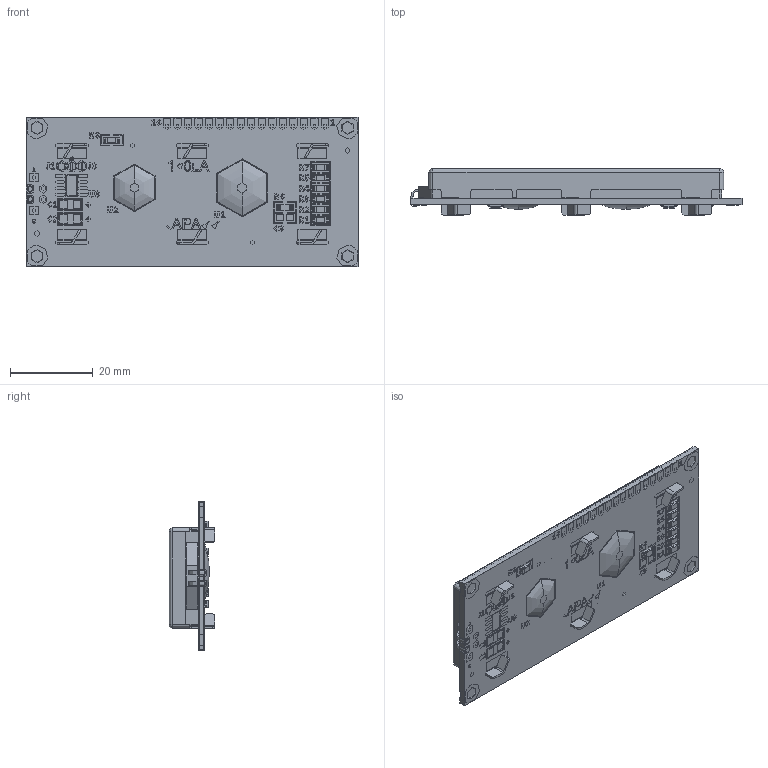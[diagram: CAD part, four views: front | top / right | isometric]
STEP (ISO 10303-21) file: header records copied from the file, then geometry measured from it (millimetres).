
FILE_DESCRIPTION(('STEP AP242'),'1');
FILE_NAME('1602 Serial LCD Module Display.stp','2025-12-17T13:30:07',(' '),(' '),'Spatial InterOp 3D',' ',' ');
FILE_SCHEMA(('AP242_MANAGED_MODEL_BASED_3D_ENGINEERING_MIM_LF {1 0 10303 442 1 1 4}'));
Length unit declared in the file: metre
Products named in the file (23): PCB; PCB Geometry; G; TXT; 1602 Serial LCD Module Display; Part; Part Geometry; LCD; LCD Geometry; chr; bay; Frm; com; com Geometry; Pin; txt2
Assembly tree (36 placements, depth 4):
  1602 Serial LCD Module Display
    PCB
      PCB Geometry
      G
      TXT
    Part
      Part Geometry
      LCD
        LCD Geometry
        chr
        bay
        Frm
      com
        com Geometry
        Pin
      com
        com Geometry
        Pin
      com
        com Geometry
        Pin
      com
        com Geometry
        Pin
      com
        com Geometry
        Pin
      com
        com Geometry
        Pin
      com
        com Geometry
        Pin
      com
        com Geometry
        Pin
    txt2
Bounding box: 80.18 x 11.1 x 36 mm (x, y, z)
Volume: 16862.7 mm3; surface area: 36368.1 mm2
Topology: 28 solids, 28 shells, 11177 faces, 28275 edges, 18748 vertices
Faces by surface type: plane 9824, extrusion 756, cylinder 477, torus 76, sphere 40, bspline 4
Full cylindrical faces by diameter (mm): 0.4 x8, 1 x8, 1.3 x3
Entity records: 354012 total; most frequent: CARTESIAN_POINT 93408, ORIENTED_EDGE 54914, DIRECTION 47604, EDGE_CURVE 27457, VECTOR 25788, LINE 25032, VERTEX_POINT 18272, EDGE_LOOP 12555
